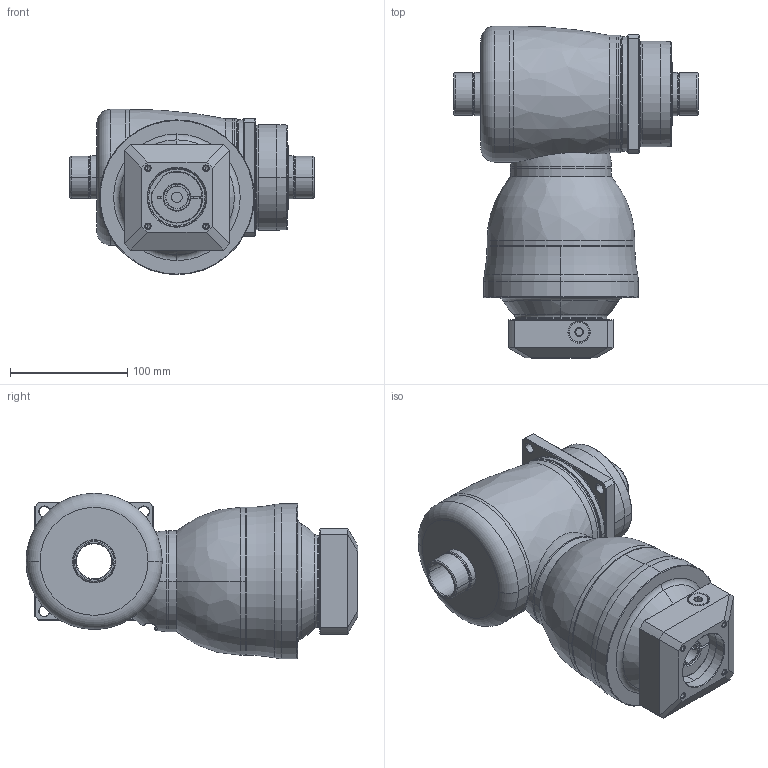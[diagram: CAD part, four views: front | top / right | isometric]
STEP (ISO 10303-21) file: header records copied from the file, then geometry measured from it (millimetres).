
FILE_DESCRIPTION((''),'2;1');
FILE_NAME('KF100_S4_2ST_19-P0409400101_ASM','2016-07-22T',('d01943'),(''),'PRO/ENGINEER BY PARAMETRIC TECHNOLOGY CORPORATION, 2008410','PRO/ENGINEER BY PARAMETRIC TECHNOLOGY CORPORATION, 2008410','');
FILE_SCHEMA(('CONFIG_CONTROL_DESIGN'));
Length unit declared in the file: millimetre
Products named in the file (11): P1008400002; P1804400001; P0914400001; P1315400001; P1007400001; P1317400101; P0409400101; P0503400006; P0912302001; 21711412017; KF100_S4_2ST_19-P0409400101_ASM
Assembly tree (10 placements, depth 2):
  KF100_S4_2ST_19-P0409400101_ASM
    P1008400002
    P1804400001
    P0914400001
    P1315400001
    P1007400001
    P1317400101
    P0409400101
    P0503400006
    P0912302001
    21711412017
Bounding box: 208.3 x 283 x 141 mm (x, y, z)
Volume: 2553489.8 mm3; surface area: 357300.3 mm2
Topology: 11 solids, 11 shells, 509 faces, 1126 edges, 662 vertices
Faces by surface type: cylinder 170, cone 126, plane 101, torus 72, bspline 38, sphere 2
Entity records: 19662 total; most frequent: CARTESIAN_POINT 8234, DIRECTION 2520, ORIENTED_EDGE 2216, EDGE_CURVE 1108, AXIS2_PLACEMENT_3D 1074, VERTEX_POINT 662, CIRCLE 582, EDGE_LOOP 580
